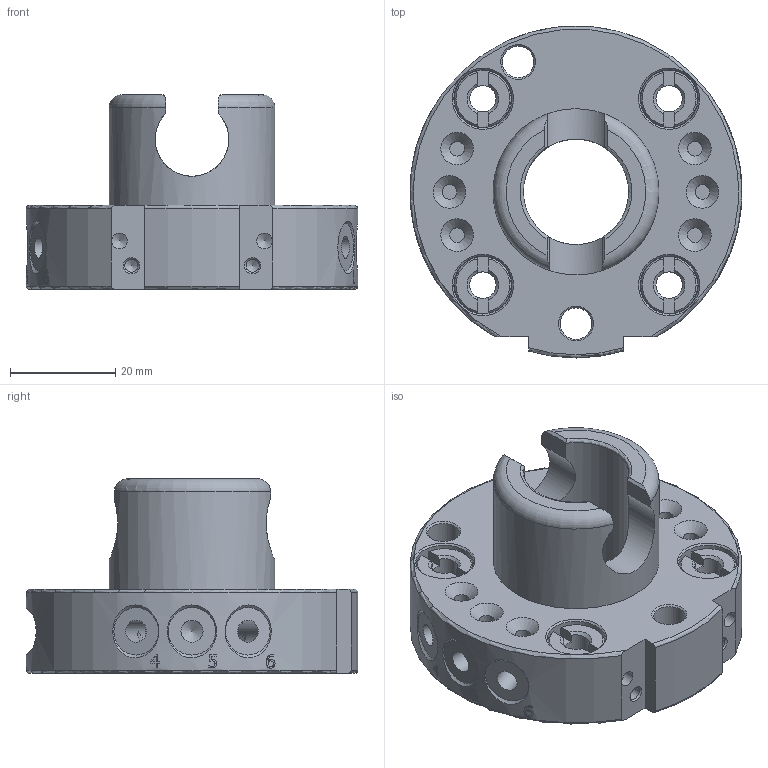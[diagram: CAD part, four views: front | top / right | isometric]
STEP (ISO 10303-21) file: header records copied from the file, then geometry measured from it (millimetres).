
FILE_DESCRIPTION(/* description */ (''),/* implementation_level */ '2;1');
FILE_NAME(/* name */ 'G-SHS063-U-A050-M6_Rev.1.02.stp',/* time_stamp */ '2026-03-17T12:01:07+01:00',/* author */ ('ysplieth'),/* organization */ (''),/* preprocessor_version */ 'ST-DEVELOPER v20.1',/* originating_system */ 'Autodesk Inventor 2026',/* authorisation */ '');
FILE_SCHEMA (('AUTOMOTIVE_DESIGN { 1 0 10303 214 3 1 1 }'));
Length unit declared in the file: millimetre
Products named in the file (1): Bauteil6
Bounding box: 63 x 62.99 x 37 mm (x, y, z)
Volume: 44333.6 mm3; surface area: 18502.1 mm2
Topology: 1 solids, 1 shells, 713 faces, 1872 edges, 1229 vertices
Faces by surface type: plane 285, bspline 229, cone 98, cylinder 85, torus 16
Full cylindrical faces by diameter (mm): 2.5 x2, 2.8 x6, 3 x2, 4.2 x18, 5 x4, 6 x2, 6.5 x4, 6.75 x4, 7 x6, 9.2 x4, 10.8 x8, 11 x8, 20 x1, 31.5 x2
Entity records: 27439 total; most frequent: CARTESIAN_POINT 10600, ORIENTED_EDGE 3712, DIRECTION 2629, EDGE_CURVE 1856, VERTEX_POINT 1229, LINE 885, VECTOR 885, AXIS2_PLACEMENT_3D 872
